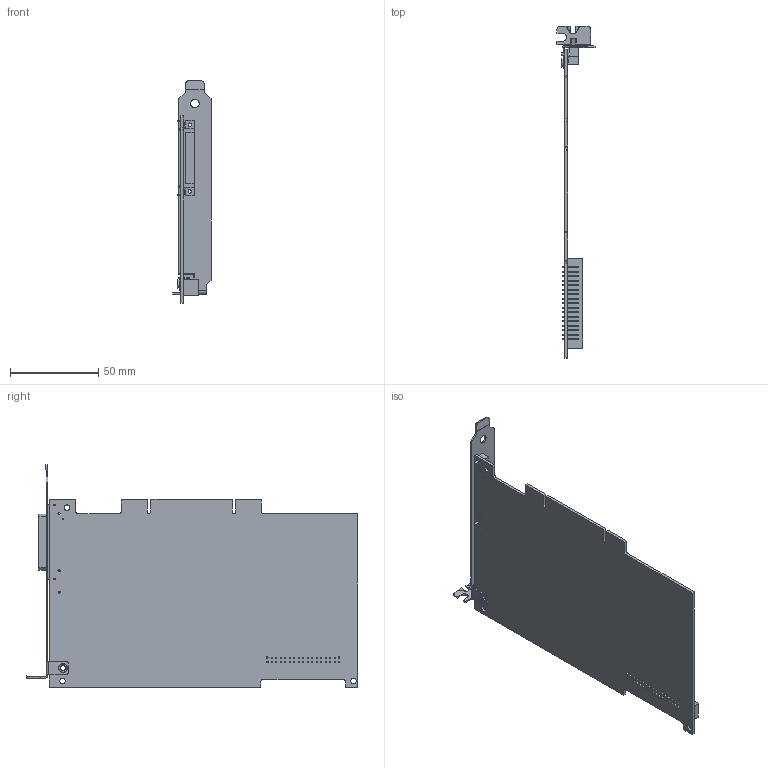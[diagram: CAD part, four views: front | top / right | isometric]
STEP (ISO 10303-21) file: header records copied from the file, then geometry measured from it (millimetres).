
FILE_DESCRIPTION((''),'2;1');
FILE_NAME('CU_PCI-6722','2011-08-12T',('dkendric'),(''),'PRO/ENGINEER BY PARAMETRIC TECHNOLOGY CORPORATION, 2010230','PRO/ENGINEER BY PARAMETRIC TECHNOLOGY CORPORATION, 2010230','');
FILE_SCHEMA(('CONFIG_CONTROL_DESIGN'));
Length unit declared in the file: inch
Products named in the file (1): CU_PCI-6722
Bounding box: 21.59 x 187.78 x 126.07 mm (x, y, z)
Volume: 33882.3 mm3; surface area: 45253.9 mm2
Topology: 1 solids, 1 shells, 837 faces, 2310 edges, 1484 vertices
Faces by surface type: plane 665, cylinder 157, torus 8, bspline 7
Entity records: 26983 total; most frequent: CARTESIAN_POINT 5176, ORIENTED_EDGE 4620, DIRECTION 4208, EDGE_CURVE 2310, VECTOR 1978, LINE 1978, VERTEX_POINT 1484, AXIS2_PLACEMENT_3D 1115
